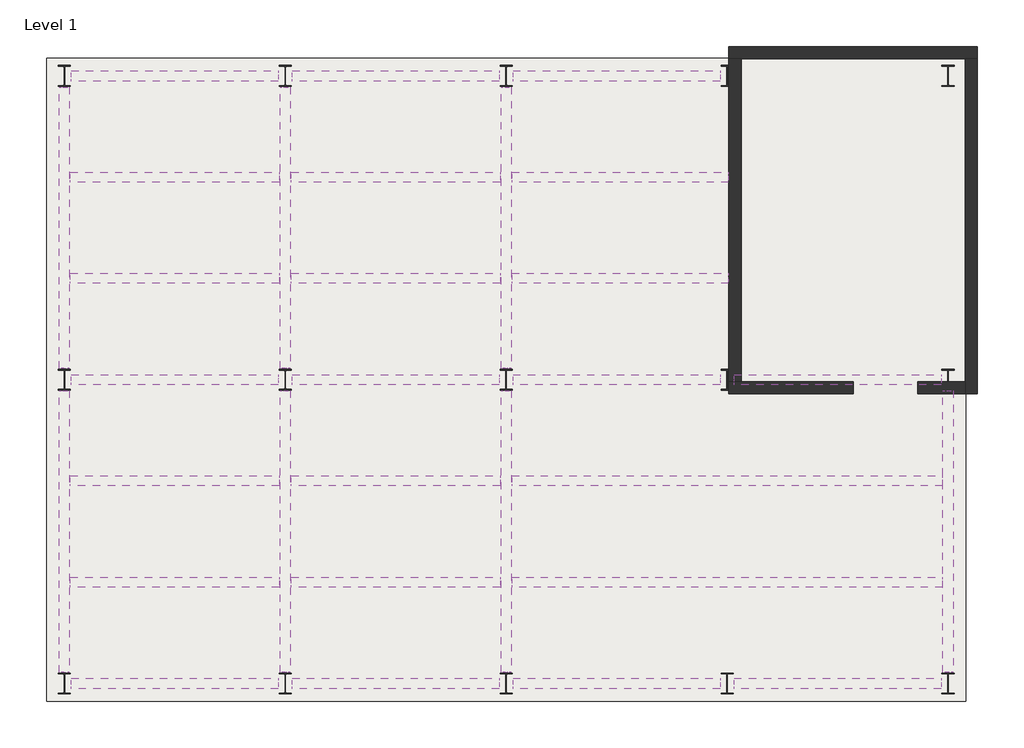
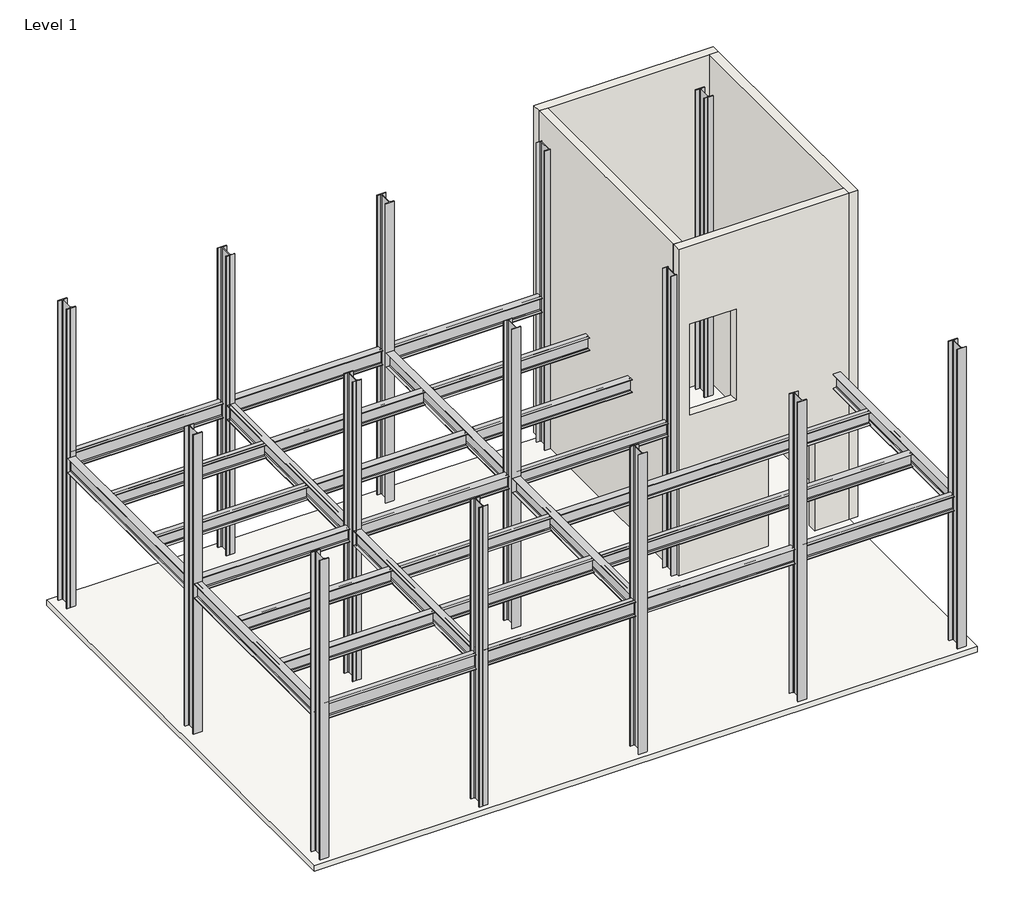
# One storey: 30 beams, 15 columns, 4 walls, 1 slab.
"""IFC4 building model written with IfcOpenShell, lengths in millimetres."""

from ifc_helpers import new_model, si_unit, frame, origin, origin_with_axes, place, context, project, spatial, polyline, outline, extrude, faceted_brep, transform, mapped, element, save
from components import w_wide_flange_w12x26_56e9a040, w_wide_flange_w12x26_53716e72, w_wide_flange_w12x26_8e34c184, w_wide_flange_w12x26_9ce355fa, w_wide_flange_w12x26_2a9d9cf0, w_wide_flange_w14x30_8274a343, w_wide_flange_w14x30_860b21b5, w_wide_flange_column_w14x43_64da9754

model = new_model("IFC4")

# Units and contexts
model_context = context("Model", 3, world=origin())
ifc_project = project(units=[si_unit("LENGTHUNIT", "METRE", prefix="MILLI")], contexts=[model_context])

# Site, building, storey
site = spatial("IfcSite", under=ifc_project)
building = spatial("IfcBuilding", under=site)
storey = spatial("IfcBuildingStorey", under=building, Name="Level 1", Elevation=0.0)

# Beams
placement = place(None, origin())
w_wide_flange_w12x26_shape = w_wide_flange_w12x26_56e9a040(model_context)
element("IfcBeam", 1, ObjectType="W-Wide Flange : W12X26", at=placement, inside=storey, context=model_context, shape_type="MappedRepresentation", body=[
    mapped(w_wide_flange_w12x26_shape, transform((4244.4101113, 7073.2928451, 3502.421875), x_axis=(1.0, 0.0, 0.0), y_axis=(0.0, 1.0, 0.0), z_axis=(0.0, 0.0, 1.0))),
])
element("IfcBeam", 2, ObjectType="W-Wide Flange : W12X26", at=placement, inside=storey, context=model_context, shape_type="MappedRepresentation", body=[
    mapped(w_wide_flange_w12x26_shape, transform((4244.4101113, 5396.8928451, 3502.421875), x_axis=(1.0, 0.0, 0.0), y_axis=(0.0, 1.0, 0.0), z_axis=(0.0, 0.0, 1.0))),
])
element("IfcBeam", 3, ObjectType="W-Wide Flange : W12X26", at=placement, inside=storey, context=model_context, shape_type="MappedRepresentation", body=[
    mapped(w_wide_flange_w12x26_shape, transform((4244.4101113, 2044.0928451, 3502.421875), x_axis=(1.0, 0.0, 0.0), y_axis=(0.0, 1.0, 0.0), z_axis=(0.0, 0.0, 1.0))),
])
element("IfcBeam", 4, ObjectType="W-Wide Flange : W12X26", at=placement, inside=storey, context=model_context, shape_type="MappedRepresentation", body=[
    mapped(w_wide_flange_w12x26_shape, transform((4244.4101113, 367.6928451, 3502.421875), x_axis=(1.0, 0.0, 0.0), y_axis=(0.0, 1.0, 0.0), z_axis=(0.0, 0.0, 1.0))),
])
element("IfcBeam", 5, ObjectType="W-Wide Flange : W12X26", at=placement, inside=storey, context=model_context, shape_type="MappedRepresentation", body=[
    mapped(w_wide_flange_w12x26_shape, transform((586.8101113, 7073.2928451, 3502.421875), x_axis=(1.0, 0.0, 0.0), y_axis=(0.0, 1.0, 0.0), z_axis=(0.0, 0.0, 1.0))),
])
element("IfcBeam", 6, ObjectType="W-Wide Flange : W12X26", at=placement, inside=storey, context=model_context, shape_type="MappedRepresentation", body=[
    mapped(w_wide_flange_w12x26_shape, transform((586.8101113, 5396.8928451, 3502.421875), x_axis=(1.0, 0.0, 0.0), y_axis=(0.0, 1.0, 0.0), z_axis=(0.0, 0.0, 1.0))),
])
element("IfcBeam", 7, ObjectType="W-Wide Flange : W12X26", at=placement, inside=storey, context=model_context, shape_type="MappedRepresentation", body=[
    mapped(w_wide_flange_w12x26_shape, transform((586.8101113, 2044.0928451, 3502.421875), x_axis=(1.0, 0.0, 0.0), y_axis=(0.0, 1.0, 0.0), z_axis=(0.0, 0.0, 1.0))),
])
element("IfcBeam", 8, ObjectType="W-Wide Flange : W12X26", at=placement, inside=storey, context=model_context, shape_type="MappedRepresentation", body=[
    mapped(w_wide_flange_w12x26_shape, transform((586.8101113, 367.6928451, 3502.421875), x_axis=(1.0, 0.0, 0.0), y_axis=(0.0, 1.0, 0.0), z_axis=(0.0, 0.0, 1.0))),
])
w_wide_flange_w12x26_2_shape = w_wide_flange_w12x26_53716e72(model_context)
element("IfcBeam", 9, ObjectType="W-Wide Flange : W12X26", at=placement, inside=storey, context=model_context, shape_type="MappedRepresentation", body=[
    mapped(w_wide_flange_w12x26_2_shape, transform((4244.4101113, 3720.4928451, 3502.421875), x_axis=(1.0, 0.0, 0.0), y_axis=(0.0, 1.0, 0.0), z_axis=(0.0, 0.0, 1.0))),
])
element("IfcBeam", 10, ObjectType="W-Wide Flange : W12X26", at=placement, inside=storey, context=model_context, shape_type="MappedRepresentation", body=[
    mapped(w_wide_flange_w12x26_2_shape, transform((586.8101113, 3720.4928451, 3502.421875), x_axis=(1.0, 0.0, 0.0), y_axis=(0.0, 1.0, 0.0), z_axis=(0.0, 0.0, 1.0))),
])
w_wide_flange_w12x26_3_shape = w_wide_flange_w12x26_8e34c184(model_context)
element("IfcBeam", 11, ObjectType="W-Wide Flange : W12X26", at=placement, inside=storey, context=model_context, shape_type="MappedRepresentation", body=[
    mapped(w_wide_flange_w12x26_3_shape, transform((7967.8913613, 7073.2928451, 3502.421875), x_axis=(1.0, 0.0, 0.0), y_axis=(0.0, 1.0, 0.0), z_axis=(0.0, 0.0, 1.0))),
])
element("IfcBeam", 12, ObjectType="W-Wide Flange : W12X26", at=placement, inside=storey, context=model_context, shape_type="MappedRepresentation", body=[
    mapped(w_wide_flange_w12x26_3_shape, transform((7967.8913613, 5396.8928451, 3502.421875), x_axis=(1.0, 0.0, 0.0), y_axis=(0.0, 1.0, 0.0), z_axis=(0.0, 0.0, 1.0))),
])
w_wide_flange_w12x26_4_shape = w_wide_flange_w12x26_9ce355fa(model_context)
element("IfcBeam", 13, ObjectType="W-Wide Flange : W12X26", at=placement, inside=storey, context=model_context, shape_type="MappedRepresentation", body=[
    mapped(w_wide_flange_w12x26_4_shape, transform((7967.8913613, 3720.4928451, 3502.421875), x_axis=(1.0, 0.0, 0.0), y_axis=(0.0, 1.0, 0.0), z_axis=(0.0, 0.0, 1.0))),
])
w_wide_flange_w12x26_5_shape = w_wide_flange_w12x26_2a9d9cf0(model_context)
element("IfcBeam", 14, ObjectType="W-Wide Flange : W12X26", at=placement, inside=storey, context=model_context, shape_type="MappedRepresentation", body=[
    mapped(w_wide_flange_w12x26_5_shape, transform((9730.8101113, 2044.0928451, 3502.421875), x_axis=(1.0, 0.0, 0.0), y_axis=(0.0, 1.0, 0.0), z_axis=(0.0, 0.0, 1.0))),
])
element("IfcBeam", 15, ObjectType="W-Wide Flange : W12X26", at=placement, inside=storey, context=model_context, shape_type="MappedRepresentation", body=[
    mapped(w_wide_flange_w12x26_5_shape, transform((9730.8101113, 367.6928451, 3502.421875), x_axis=(1.0, 0.0, 0.0), y_axis=(0.0, 1.0, 0.0), z_axis=(0.0, 0.0, 1.0))),
])
w_wide_flange_w14x30_shape = w_wide_flange_w14x30_8274a343(model_context)
element("IfcBeam", 16, ObjectType="W-Wide Flange : W14X30", at=placement, inside=storey, context=model_context, shape_type="MappedRepresentation", body=[
    mapped(w_wide_flange_w14x30_shape, transform((4244.4101113, 8749.6928451, 3481.8339844), x_axis=(1.0, 0.0, 0.0), y_axis=(0.0, 1.0, 0.0), z_axis=(0.0, 0.0, 1.0))),
])
element("IfcBeam", 17, ObjectType="W-Wide Flange : W14X30", at=placement, inside=storey, context=model_context, shape_type="MappedRepresentation", body=[
    mapped(w_wide_flange_w14x30_shape, transform((7902.0101113, 8749.6928451, 3481.8339844), x_axis=(1.0, 0.0, 0.0), y_axis=(0.0, 1.0, 0.0), z_axis=(0.0, 0.0, 1.0))),
])
element("IfcBeam", 18, ObjectType="W-Wide Flange : W14X30", at=placement, inside=storey, context=model_context, shape_type="MappedRepresentation", body=[
    mapped(w_wide_flange_w14x30_shape, transform((4244.4101113, -1308.7071549, 3481.8339844), x_axis=(1.0, 0.0, 0.0), y_axis=(0.0, 1.0, 0.0), z_axis=(0.0, 0.0, 1.0))),
])
element("IfcBeam", 19, ObjectType="W-Wide Flange : W14X30", at=placement, inside=storey, context=model_context, shape_type="MappedRepresentation", body=[
    mapped(w_wide_flange_w14x30_shape, transform((7902.0101113, -1308.7071549, 3481.8339844), x_axis=(1.0, 0.0, 0.0), y_axis=(0.0, 1.0, 0.0), z_axis=(0.0, 0.0, 1.0))),
])
element("IfcBeam", 20, ObjectType="W-Wide Flange : W14X30", at=placement, inside=storey, context=model_context, shape_type="MappedRepresentation", body=[
    mapped(w_wide_flange_w14x30_shape, transform((11559.6101113, -1308.7071549, 3481.8339844), x_axis=(1.0, 0.0, 0.0), y_axis=(0.0, 1.0, 0.0), z_axis=(0.0, 0.0, 1.0))),
])
element("IfcBeam", 21, ObjectType="W-Wide Flange : W14X30", at=placement, inside=storey, context=model_context, shape_type="MappedRepresentation", body=[
    mapped(w_wide_flange_w14x30_shape, transform((11559.6101113, 3720.4928451, 3481.8339844), x_axis=(-1.0, 0.0, 0.0), y_axis=(0.0, -1.0, 0.0), z_axis=(0.0, 0.0, 1.0))),
])
element("IfcBeam", 22, ObjectType="W-Wide Flange : W14X30", at=placement, inside=storey, context=model_context, shape_type="MappedRepresentation", body=[
    mapped(w_wide_flange_w14x30_shape, transform((586.8101113, 8749.6928451, 3481.8339844), x_axis=(1.0, 0.0, 0.0), y_axis=(0.0, 1.0, 0.0), z_axis=(0.0, 0.0, 1.0))),
])
element("IfcBeam", 23, ObjectType="W-Wide Flange : W14X30", at=placement, inside=storey, context=model_context, shape_type="MappedRepresentation", body=[
    mapped(w_wide_flange_w14x30_shape, transform((586.8101113, -1308.7071549, 3481.8339844), x_axis=(-1.0, 0.0, 0.0), y_axis=(0.0, -1.0, 0.0), z_axis=(0.0, 0.0, 1.0))),
])
w_wide_flange_w14x30_2_shape = w_wide_flange_w14x30_860b21b5(model_context)
element("IfcBeam", 24, ObjectType="W-Wide Flange : W14X30", at=placement, inside=storey, context=model_context, shape_type="MappedRepresentation", body=[
    mapped(w_wide_flange_w14x30_2_shape, transform((6073.2101113, 6235.0928451, 3481.8339844), x_axis=(0.0, -1.0, 0.0), y_axis=(1.0, 0.0, 0.0), z_axis=(0.0, 0.0, 1.0))),
])
element("IfcBeam", 25, ObjectType="W-Wide Flange : W14X30", at=placement, inside=storey, context=model_context, shape_type="MappedRepresentation", body=[
    mapped(w_wide_flange_w14x30_2_shape, transform((6073.2101113, 1205.8928451, 3481.8339844), x_axis=(0.0, -1.0, 0.0), y_axis=(1.0, 0.0, 0.0), z_axis=(0.0, 0.0, 1.0))),
])
element("IfcBeam", 26, ObjectType="W-Wide Flange : W14X30", at=placement, inside=storey, context=model_context, shape_type="MappedRepresentation", body=[
    mapped(w_wide_flange_w14x30_2_shape, transform((13388.4101113, 1205.8928451, 3481.8339844), x_axis=(0.0, 1.0, 0.0), y_axis=(-1.0, 0.0, 0.0), z_axis=(0.0, 0.0, 1.0))),
])
element("IfcBeam", 27, ObjectType="W-Wide Flange : W14X30", at=placement, inside=storey, context=model_context, shape_type="MappedRepresentation", body=[
    mapped(w_wide_flange_w14x30_2_shape, transform((2415.6101113, 6235.0928451, 3481.8339844), x_axis=(0.0, -1.0, 0.0), y_axis=(1.0, 0.0, 0.0), z_axis=(0.0, 0.0, 1.0))),
])
element("IfcBeam", 28, ObjectType="W-Wide Flange : W14X30", at=placement, inside=storey, context=model_context, shape_type="MappedRepresentation", body=[
    mapped(w_wide_flange_w14x30_2_shape, transform((2415.6101113, 1205.8928451, 3481.8339844), x_axis=(0.0, -1.0, 0.0), y_axis=(1.0, 0.0, 0.0), z_axis=(0.0, 0.0, 1.0))),
])
element("IfcBeam", 29, ObjectType="W-Wide Flange : W14X30", at=placement, inside=storey, context=model_context, shape_type="MappedRepresentation", body=[
    mapped(w_wide_flange_w14x30_2_shape, transform((-1241.9898887, 1205.8928451, 3481.8339844), x_axis=(0.0, 1.0, 0.0), y_axis=(-1.0, 0.0, 0.0), z_axis=(0.0, 0.0, 1.0))),
])
element("IfcBeam", 30, ObjectType="W-Wide Flange : W14X30", at=placement, inside=storey, context=model_context, shape_type="MappedRepresentation", body=[
    mapped(w_wide_flange_w14x30_2_shape, transform((-1241.9898887, 6235.0928451, 3481.8339844), x_axis=(0.0, 1.0, 0.0), y_axis=(-1.0, 0.0, 0.0), z_axis=(0.0, 0.0, 1.0))),
])

# Columns
w_wide_flange_column_w14x43_shape = w_wide_flange_column_w14x43_64da9754(model_context)
element("IfcColumn", 31, ObjectType="W-Wide Flange-Column : W14X43", at=placement, inside=storey, context=model_context, shape_type="MappedRepresentation", body=[
    mapped(w_wide_flange_column_w14x43_shape, transform((-1241.9898887, 8749.6928451, 0.0), x_axis=(1.0, 0.0, 0.0), y_axis=(0.0, 1.0, 0.0), z_axis=(0.0, 0.0, 1.0))),
])
element("IfcColumn", 32, ObjectType="W-Wide Flange-Column : W14X43", at=placement, inside=storey, context=model_context, shape_type="MappedRepresentation", body=[
    mapped(w_wide_flange_column_w14x43_shape, transform((2415.6101113, 8749.6928451, 0.0), x_axis=(1.0, 0.0, 0.0), y_axis=(0.0, 1.0, 0.0), z_axis=(0.0, 0.0, 1.0))),
])
element("IfcColumn", 33, ObjectType="W-Wide Flange-Column : W14X43", at=placement, inside=storey, context=model_context, shape_type="MappedRepresentation", body=[
    mapped(w_wide_flange_column_w14x43_shape, transform((6073.2101113, 8749.6928451, 0.0), x_axis=(1.0, 0.0, 0.0), y_axis=(0.0, 1.0, 0.0), z_axis=(0.0, 0.0, 1.0))),
])
element("IfcColumn", 34, ObjectType="W-Wide Flange-Column : W14X43", at=placement, inside=storey, context=model_context, shape_type="MappedRepresentation", body=[
    mapped(w_wide_flange_column_w14x43_shape, transform((9730.8101113, 8749.6928451, 0.0), x_axis=(1.0, 0.0, 0.0), y_axis=(0.0, 1.0, 0.0), z_axis=(0.0, 0.0, 1.0))),
])
element("IfcColumn", 35, ObjectType="W-Wide Flange-Column : W14X43", at=placement, inside=storey, context=model_context, shape_type="MappedRepresentation", body=[
    mapped(w_wide_flange_column_w14x43_shape, transform((13388.4101113, 8749.6928451, 0.0), x_axis=(1.0, 0.0, 0.0), y_axis=(0.0, 1.0, 0.0), z_axis=(0.0, 0.0, 1.0))),
])
element("IfcColumn", 36, ObjectType="W-Wide Flange-Column : W14X43", at=placement, inside=storey, context=model_context, shape_type="MappedRepresentation", body=[
    mapped(w_wide_flange_column_w14x43_shape, transform((13388.4101113, 3720.4928451, 0.0), x_axis=(1.0, 0.0, 0.0), y_axis=(0.0, 1.0, 0.0), z_axis=(0.0, 0.0, 1.0))),
])
element("IfcColumn", 37, ObjectType="W-Wide Flange-Column : W14X43", at=placement, inside=storey, context=model_context, shape_type="MappedRepresentation", body=[
    mapped(w_wide_flange_column_w14x43_shape, transform((9730.8101113, 3720.4928451, 0.0), x_axis=(1.0, 0.0, 0.0), y_axis=(0.0, 1.0, 0.0), z_axis=(0.0, 0.0, 1.0))),
])
element("IfcColumn", 38, ObjectType="W-Wide Flange-Column : W14X43", at=placement, inside=storey, context=model_context, shape_type="MappedRepresentation", body=[
    mapped(w_wide_flange_column_w14x43_shape, transform((6073.2101113, 3720.4928451, 0.0), x_axis=(1.0, 0.0, 0.0), y_axis=(0.0, 1.0, 0.0), z_axis=(0.0, 0.0, 1.0))),
])
element("IfcColumn", 39, ObjectType="W-Wide Flange-Column : W14X43", at=placement, inside=storey, context=model_context, shape_type="MappedRepresentation", body=[
    mapped(w_wide_flange_column_w14x43_shape, transform((2415.6101113, 3720.4928451, 0.0), x_axis=(1.0, 0.0, 0.0), y_axis=(0.0, 1.0, 0.0), z_axis=(0.0, 0.0, 1.0))),
])
element("IfcColumn", 40, ObjectType="W-Wide Flange-Column : W14X43", at=placement, inside=storey, context=model_context, shape_type="MappedRepresentation", body=[
    mapped(w_wide_flange_column_w14x43_shape, transform((-1241.9898887, -1308.7071549, 0.0), x_axis=(1.0, 0.0, 0.0), y_axis=(0.0, 1.0, 0.0), z_axis=(0.0, 0.0, 1.0))),
])
element("IfcColumn", 41, ObjectType="W-Wide Flange-Column : W14X43", at=placement, inside=storey, context=model_context, shape_type="MappedRepresentation", body=[
    mapped(w_wide_flange_column_w14x43_shape, transform((2415.6101113, -1308.7071549, 0.0), x_axis=(1.0, 0.0, 0.0), y_axis=(0.0, 1.0, 0.0), z_axis=(0.0, 0.0, 1.0))),
])
element("IfcColumn", 42, ObjectType="W-Wide Flange-Column : W14X43", at=placement, inside=storey, context=model_context, shape_type="MappedRepresentation", body=[
    mapped(w_wide_flange_column_w14x43_shape, transform((6073.2101113, -1308.7071549, 0.0), x_axis=(1.0, 0.0, 0.0), y_axis=(0.0, 1.0, 0.0), z_axis=(0.0, 0.0, 1.0))),
])
element("IfcColumn", 43, ObjectType="W-Wide Flange-Column : W14X43", at=placement, inside=storey, context=model_context, shape_type="MappedRepresentation", body=[
    mapped(w_wide_flange_column_w14x43_shape, transform((13388.4101113, -1308.7071549, 0.0), x_axis=(1.0, 0.0, 0.0), y_axis=(0.0, 1.0, 0.0), z_axis=(0.0, 0.0, 1.0))),
])
element("IfcColumn", 44, ObjectType="W-Wide Flange-Column : W14X43", at=placement, inside=storey, context=model_context, shape_type="MappedRepresentation", body=[
    mapped(w_wide_flange_column_w14x43_shape, transform((9730.8101113, -1308.7071549, 0.0), x_axis=(1.0, 0.0, 0.0), y_axis=(0.0, 1.0, 0.0), z_axis=(0.0, 0.0, 1.0))),
])
element("IfcColumn", 45, ObjectType="W-Wide Flange-Column : W14X43", at=placement, inside=storey, context=model_context, shape_type="MappedRepresentation", body=[
    mapped(w_wide_flange_column_w14x43_shape, transform((-1241.9898887, 3720.4928451, 0.0), x_axis=(1.0, 0.0, 0.0), y_axis=(0.0, 1.0, 0.0), z_axis=(0.0, 0.0, 1.0))),
])

# Slab
element("IfcSlab", 46, ObjectType="3\" LW Concrete on 2\" Metal Deck 2010 upgrade", at=placement, inside=storey, context=model_context, shape_type="SweptSolid", body=[
    extrude(outline(polyline([(13682.0976113, -1602.3946549), (-1535.6773887, -1602.3946549), (-1535.6773887, 9043.3803451), (13682.0976113, 9043.3803451), (13682.0976113, -1602.3946549)])), frame((0.0, 0.0, -127.0), z_axis=(0.0, 0.0, 1.0), x_axis=(1.0, 0.0, 0.0)), (0.0, 0.0, 1.0), 127.0),
])

# Walls
element("IfcWall", 47, ObjectType="Exterior - 8\" Concrete", at=placement, inside=storey, context=model_context, shape_type="Brep", body=[
    faceted_brep([(13874.1851113, 9235.4678451, 0.0), (9760.9726113, 9235.4678451, 0.0), (9760.9726113, 9235.4678451, 7924.8), (13874.1851113, 9235.4678451, 7924.8), (13874.1851113, 9032.2678451, 0.0), (13874.1851113, 9032.2678451, 7924.8), (13670.9851113, 9032.2678451, 7924.8), (9964.1726113, 9032.2678451, 7924.8), (9760.9726113, 9032.2678451, 7924.8), (9760.9726113, 9032.2678451, 0.0), (9964.1726113, 9032.2678451, 0.0), (13670.9851113, 9032.2678451, 0.0)], [[[0, 1, 2, 3]], [[4, 5, 6, 7, 8, 9, 10, 11]], [[1, 0, 4, 11, 10, 9]], [[3, 2, 8, 7, 6, 5]], [[2, 1, 9, 8]], [[0, 3, 5, 4]]]),
])
element("IfcWall", 48, ObjectType="Exterior - 8\" Concrete", at=placement, inside=storey, context=model_context, shape_type="SweptSolid", body=[
    extrude(outline(polyline([(9964.1726113, 9032.2678451), (9964.1726113, 3690.3303451), (9760.9726113, 3690.3303451), (9760.9726113, 9032.2678451), (9964.1726113, 9032.2678451)])), origin_with_axes(), (0.0, 0.0, 1.0), 7924.8),
])
element("IfcWall", 49, ObjectType="Exterior - 8\" Concrete", at=placement, inside=storey, context=model_context, shape_type="Brep", body=[
    faceted_brep([(13874.1851113, 3487.1303451, 0.0), (13874.1851113, 9032.2678451, 0.0), (13874.1851113, 9032.2678451, 7924.8), (13874.1851113, 3487.1303451, 7924.8), (13670.9851113, 3487.1303451, 0.0), (13670.9851113, 3487.1303451, 7924.8), (13670.9851113, 3690.3303451, 7924.8), (13670.9851113, 9032.2678451, 7924.8), (13670.9851113, 9032.2678451, 0.0), (13670.9851113, 3690.3303451, 0.0)], [[[0, 1, 2, 3]], [[4, 5, 6, 7, 8, 9]], [[1, 0, 4, 9, 8]], [[3, 2, 7, 6, 5]], [[0, 3, 5, 4]], [[2, 1, 8, 7]]]),
])
element("IfcWall", 50, ObjectType="Exterior - 8\" Concrete", at=placement, inside=storey, context=model_context, shape_type="Brep", body=[
    faceted_brep([(9760.9726113, 3690.3303451, 0.0), (9760.9726113, 3690.3303451, 7924.8), (9964.1726113, 3690.3303451, 7924.8), (13670.9851113, 3690.3303451, 7924.8), (13670.9851113, 3690.3303451, 0.0), (12881.9976113, 3690.3303451, 0.0), (12881.9976113, 3690.3303451, 2209.8), (11815.1976113, 3690.3303451, 2209.8), (11815.1976113, 3690.3303451, 0.0), (9964.1726113, 3690.3303451, 0.0), (11081.7726113, 3690.3303451, 6019.8), (10014.9726113, 3690.3303451, 6019.8), (10014.9726113, 3690.3303451, 3810.0), (11081.7726113, 3690.3303451, 3810.0), (9760.9726113, 3487.1303451, 7924.8), (9760.9726113, 3487.1303451, 0.0), (11815.1976113, 3487.1303451, 0.0), (11815.1976113, 3487.1303451, 2209.8), (12881.9976113, 3487.1303451, 2209.8), (12881.9976113, 3487.1303451, 0.0), (13670.9851113, 3487.1303451, 0.0), (13670.9851113, 3487.1303451, 7924.8), (10014.9726113, 3487.1303451, 6019.8), (11081.7726113, 3487.1303451, 6019.8), (11081.7726113, 3487.1303451, 3810.0), (10014.9726113, 3487.1303451, 3810.0)], [[[0, 1, 2, 3, 4, 5, 6, 7, 8, 9], [10, 11, 12, 13]], [[14, 15, 16, 17, 18, 19, 20, 21], [22, 23, 24, 25]], [[15, 0, 9, 8, 16]], [[4, 20, 19, 5]], [[3, 2, 1, 14, 21]], [[6, 18, 17, 7]], [[18, 6, 5, 19]], [[7, 17, 16, 8]], [[10, 23, 22, 11]], [[12, 25, 24, 13]], [[23, 10, 13, 24]], [[11, 22, 25, 12]], [[1, 0, 15, 14]], [[4, 3, 21, 20]]]),
])

save(model, "model.ifc")
